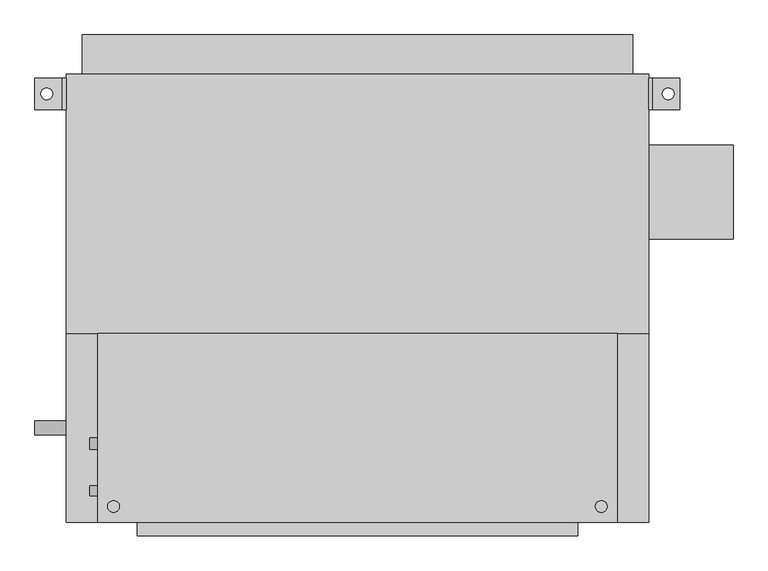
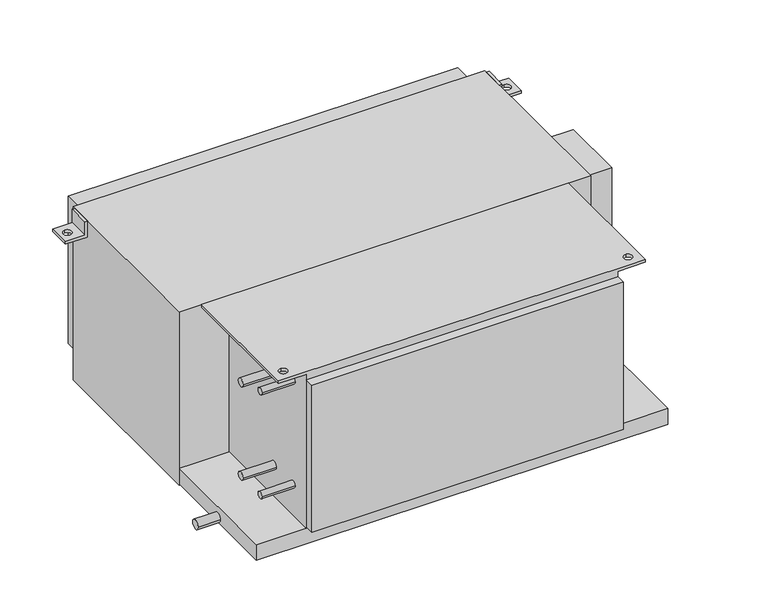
"""IFC4 building model written with IfcOpenShell, lengths in millimetres: proxy geometry, Concealed_High_Capacity_Horizontal_Fan_Coil_Unit_With_Plenum_-_42DCA_-_CARRIER_-_4-Pipe_LH_2022 : Size 12 - 277v/60Hz/1Ph - 6/2 Coil."""

import ifcopenshell
import ifcopenshell.guid

model = None  # the IFC model being written
_history = None  # IfcOwnerHistory: only IFC2X3 demands one
_inside = {}  # id of a spatial element -> (the spatial element, [elements in it])
_under = {}  # id of a project, library or spatial element -> (it, [spatial elements below it])
_declared = {}  # id of a project -> (the project, [libraries it declares])
_typed = {}  # id of a type object -> (the type object, [elements of that type])
_made_of = {}  # id of a material, layer set ... -> (it, [elements and type objects made of it])


def new_model(schema):
    """Start an empty IFC model of exactly this schema.

    Asked for "IFC4X3", IfcOpenShell would pick the latest addendum, in which some entities
    have other attributes; the version numbers below select the first issue.
    IFC2X3 requires an IfcOwnerHistory on every rooted entity: one is made here for all.
    """
    global model, _history
    if schema == "IFC4X3":
        model = ifcopenshell.file(schema_version=(4, 3, 0, 0))
    else:
        model = ifcopenshell.file(schema=schema)
    _inside.clear()
    _under.clear()
    _declared.clear()
    _typed.clear()
    _made_of.clear()
    _history = None
    if model.schema == "IFC2X3":
        org = make("IfcOrganization", Name="unknown")
        user = make(
            "IfcPersonAndOrganization",
            ThePerson=make("IfcPerson", FamilyName="unknown"),
            TheOrganization=org,
        )
        app = make(
            "IfcApplication",
            ApplicationDeveloper=org,
            Version="unknown",
            ApplicationFullName="unknown",
            ApplicationIdentifier="unknown",
        )
        _history = make(
            "IfcOwnerHistory",
            OwningUser=user,
            OwningApplication=app,
            ChangeAction="ADDED",
            CreationDate=0,
        )
    return model


def make(cls, **values):
    """One entity of the class cls with the attributes given. An attribute that is None is left unset."""
    return model.create_entity(
        cls, **{name: value for name, value in values.items() if value is not None}
    )


def rooted(cls, **values):
    """An entity with a GlobalId (a new one), such as an element, a storey or a relation."""
    return make(cls, GlobalId=ifcopenshell.guid.new(), OwnerHistory=_history, **values)


def si_unit(unit_type, name, prefix=None):
    """IfcSIUnit, for example si_unit("LENGTHUNIT", "METRE", prefix="MILLI")."""
    return make("IfcSIUnit", UnitType=unit_type, Prefix=prefix, Name=name)


def assignment(units):
    """IfcUnitAssignment: the units of a project."""
    return None if units is None else make("IfcUnitAssignment", Units=units)


def point(xyz):
    """IfcCartesianPoint."""
    return None if xyz is None else make("IfcCartesianPoint", Coordinates=xyz)


def direction(xyz):
    """IfcDirection."""
    return None if xyz is None else make("IfcDirection", DirectionRatios=xyz)


def frame(location, z_axis=None, x_axis=None):
    """IfcAxis2Placement3D, a coordinate frame: its origin and axes. An axis left out is left unset."""
    return make(
        "IfcAxis2Placement3D",
        Location=point(location),
        Axis=direction(z_axis),
        RefDirection=direction(x_axis),
    )


def frame_2d(location, x_axis=None):
    """IfcAxis2Placement2D, a coordinate frame in the plane: its origin and x axis."""
    return make(
        "IfcAxis2Placement2D", Location=point(location), RefDirection=direction(x_axis)
    )


def origin():
    """The frame at (0, 0, 0) with its axes left unset."""
    return frame((0.0, 0.0, 0.0))


def place(relative_to, where):
    """IfcLocalPlacement: puts the frame where relative to a parent placement (None: the world)."""
    return make(
        "IfcLocalPlacement", PlacementRelTo=relative_to, RelativePlacement=where
    )


def context(
    kind, dimensions, precision=None, world=None, true_north=None, identifier=None
):
    """IfcGeometricRepresentationContext, for example the 3D "Model" context."""
    return make(
        "IfcGeometricRepresentationContext",
        ContextIdentifier=identifier,
        ContextType=kind,
        CoordinateSpaceDimension=dimensions,
        Precision=precision,
        WorldCoordinateSystem=world,
        TrueNorth=true_north,
    )


def project(units=None, contexts=None):
    """IfcProject with its units and contexts."""
    return rooted(
        "IfcProject",
        Name="project",
        RepresentationContexts=contexts,
        UnitsInContext=assignment(units),
    )


def spatial(cls, under=None, at=None, **own):
    """A site, building, storey or space (cls), placed at a placement, below another one or the project."""
    s = rooted(cls, ObjectPlacement=at, **own)
    if under is not None:
        _under.setdefault(under.id(), (under, []))[1].append(s)
    return s


def polyline(points):
    """IfcPolyline through the points."""
    return make("IfcPolyline", Points=[point(p) for p in points])


def circle_curve(where, radius):
    """IfcCircle in the frame where."""
    return make("IfcCircle", Position=where, Radius=radius)


def trimmed(basis, trim1, trim2, sense, master):
    """IfcTrimmedCurve: the piece of a basis curve between two trims."""
    return make(
        "IfcTrimmedCurve",
        BasisCurve=basis,
        Trim1=trim1,
        Trim2=trim2,
        SenseAgreement=sense,
        MasterRepresentation=master,
    )


def segment(curve, same_sense, transition):
    """IfcCompositeCurveSegment."""
    return make(
        "IfcCompositeCurveSegment",
        Transition=transition,
        SameSense=same_sense,
        ParentCurve=curve,
    )


def composite_curve(segments, self_intersect=None):
    """IfcCompositeCurve: segments joined end to end."""
    return make("IfcCompositeCurve", Segments=segments, SelfIntersect=self_intersect)


def outline(outer, holes=None, kind="AREA"):
    """IfcArbitraryClosedProfileDef: a profile drawn as a closed curve; with holes, ...WithVoids."""
    if holes is None:
        return make("IfcArbitraryClosedProfileDef", ProfileType=kind, OuterCurve=outer)
    return make(
        "IfcArbitraryProfileDefWithVoids",
        ProfileType=kind,
        OuterCurve=outer,
        InnerCurves=holes,
    )


def extrude(swept, where, along, depth):
    """IfcExtrudedAreaSolid: the profile swept, set in the frame where, extruded along a direction by depth."""
    return make(
        "IfcExtrudedAreaSolid",
        SweptArea=swept,
        Position=where,
        ExtrudedDirection=direction(along),
        Depth=depth,
    )


def shape(context_of_items, identifier, shape_type, items):
    """IfcShapeRepresentation: the items that make up one representation, for example the "Body"."""
    return make(
        "IfcShapeRepresentation",
        ContextOfItems=context_of_items,
        RepresentationIdentifier=identifier,
        RepresentationType=shape_type,
        Items=items,
    )


def source(mapping_origin, context_of_items, identifier, shape_type, items):
    """IfcRepresentationMap: a shape defined once, which mapped items show again and again."""
    return make(
        "IfcRepresentationMap",
        MappingOrigin=mapping_origin,
        MappedRepresentation=shape(context_of_items, identifier, shape_type, items),
    )


def transform(
    local_origin,
    x_axis=None,
    y_axis=None,
    z_axis=None,
    scale=None,
    scale2=None,
    scale3=None,
    uniform=True,
):
    """IfcCartesianTransformationOperator3D, or its non-uniform kind. x_axis, y_axis, z_axis: its Axis1, 2, 3."""
    if uniform:
        return make(
            "IfcCartesianTransformationOperator3D",
            Axis1=direction(x_axis),
            Axis2=direction(y_axis),
            LocalOrigin=point(local_origin),
            Scale=scale,
            Axis3=direction(z_axis),
        )
    return make(
        "IfcCartesianTransformationOperator3DnonUniform",
        Axis1=direction(x_axis),
        Axis2=direction(y_axis),
        LocalOrigin=point(local_origin),
        Scale=scale,
        Axis3=direction(z_axis),
        Scale2=scale2,
        Scale3=scale3,
    )


def mapped(mapping_source, mapping_target):
    """IfcMappedItem: shows the shape of a source again, moved by a transform."""
    return make(
        "IfcMappedItem", MappingSource=mapping_source, MappingTarget=mapping_target
    )


def made_of(thing, what):
    """Note that an element or type object is made of a material, layer set ...; save() writes the relation."""
    if what is not None:
        _made_of.setdefault(what.id(), (what, []))[1].append(thing)
    return thing


def element(
    cls,
    number,
    at=None,
    inside=None,
    cuts=None,
    type_object=None,
    material=None,
    context=None,
    identifier="Body",
    shape_type=None,
    held_by="IfcProductDefinitionShape",
    body=None,
    shapes=None,
    **own,
):
    """One element of the class cls, such as IfcWall. Its Tag is "e" and its number.

    at: its placement. inside: the storey or other place that contains it. cuts: it is an
    opening in that element (IfcRelVoidsElement). A single representation is given by context,
    identifier, shape_type and body (its items); several are given by shapes. held_by: the class
    of the entity that holds the representations. save() writes the other relations.
    """
    e = rooted(cls, Tag="e%d" % number, ObjectPlacement=at, **own)
    if body is not None:
        shapes = [shape(context, identifier, shape_type, body)]
    if shapes is not None:
        e.Representation = make(held_by, Representations=shapes)
    if inside is not None:
        _inside.setdefault(inside.id(), (inside, []))[1].append(e)
    if cuts is not None:
        rooted(
            "IfcRelVoidsElement", RelatingBuildingElement=cuts, RelatedOpeningElement=e
        )
    if type_object is not None:
        _typed.setdefault(type_object.id(), (type_object, []))[1].append(e)
    return made_of(e, material)


def aggregate(whole, parts):
    """IfcRelAggregates: a whole, such as a stair, and the parts it consists of."""
    return rooted("IfcRelAggregates", RelatingObject=whole, RelatedObjects=parts)


def save(model, path):
    """Write the relations noted so far, then the file.

    IfcRelAggregates (storeys below a building ...), IfcRelContainedInSpatialStructure (elements
    in a storey), IfcRelDefinesByType, IfcRelAssociatesMaterial and IfcRelDeclares: one each for
    every whole, place, type object, material and project.
    """
    for whole, parts in _under.values():
        aggregate(whole, parts)
    for where, things in _inside.values():
        rooted(
            "IfcRelContainedInSpatialStructure",
            RelatedElements=things,
            RelatingStructure=where,
        )
    for kind, things in _typed.values():
        rooted("IfcRelDefinesByType", RelatedObjects=things, RelatingType=kind)
    for what, things in _made_of.values():
        rooted("IfcRelAssociatesMaterial", RelatedObjects=things, RelatingMaterial=what)
    for by, libraries in _declared.values():
        rooted("IfcRelDeclares", RelatingContext=by, RelatedDefinitions=libraries)
    model.write(path)


def plane_surface(at):
    """IfcPlane: the flat surface through the origin of the frame at, square to its z axis."""
    return make("IfcPlane", Position=at)


def revolved_surface(curve, axis_point, axis_direction):
    """IfcSurfaceOfRevolution: the curve turned about the line through axis_point along axis_direction."""
    return make(
        "IfcSurfaceOfRevolution",
        SweptCurve=make("IfcArbitraryOpenProfileDef", ProfileType="CURVE", Curve=curve),
        AxisPosition=make("IfcAxis1Placement", Location=point(axis_point), Axis=direction(axis_direction)),
    )


def advanced_brep(points, edges, surfaces, faces):
    """IfcAdvancedBrep: a solid bounded by faces that lie on surfaces and meet in shared edges.

    An edge is (start, end): straight between two places in points (the first is 0);
    or (start, end, curve); or (start, end, curve, False) where it runs against its curve.
    A face is (place in surfaces, loops), or (place, loops, False) where it looks against
    its surface's normal. A loop lists edges by number (the first is 1), with a minus sign
    where the edge is run from its end to its start. The first loop is the outer one.
    """
    corners = [point(p) for p in points]
    vertices = [make("IfcVertexPoint", VertexGeometry=c) for c in corners]
    made = []
    for start, end, *more in edges:
        made.append(
            make(
                "IfcEdgeCurve",
                EdgeStart=vertices[start],
                EdgeEnd=vertices[end],
                EdgeGeometry=more[0] if more else make("IfcPolyline", Points=[corners[start], corners[end]]),
                SameSense=more[1] if len(more) > 1 else True,
            )
        )
    hull = []
    for where, loops, *sense in faces:
        bounds = []
        for j, loop in enumerate(loops):
            ring = [make("IfcOrientedEdge", EdgeElement=made[abs(k) - 1], Orientation=k > 0) for k in loop]
            bounds.append(
                make(
                    "IfcFaceOuterBound" if j == 0 else "IfcFaceBound",
                    Bound=make("IfcEdgeLoop", EdgeList=ring),
                    Orientation=True,
                )
            )
        hull.append(make("IfcAdvancedFace", Bounds=bounds, FaceSurface=surfaces[where], SameSense=sense[0] if sense else True))
    return make("IfcAdvancedBrep", Outer=make("IfcClosedShell", CfsFaces=hull))


def mechanical_equipment_0505dad4(model_context):
    return source(origin(), model_context, "Body", "SolidModel", [
        advanced_brep(
        [(-266.7, -85.725, 0.0), (-266.7, -390.525, 0.0), (571.5, -390.525, 0.0), (571.5, -85.725, 0.0), (-241.3, -374.65, 0.0), (-241.3, -355.6, 0.0), (546.1, -374.65, 0.0), (546.1, -355.6, 0.0), (508.0, -85.725, -377.825), (508.0, -390.525, -377.825), (-203.2, -390.525, -377.825), (-203.2, -85.725, -377.825), (-203.2, -85.725, -6.35), (-266.7, -85.725, -6.35), (571.5, -85.725, -6.35), (508.0, -85.725, -6.35), (-203.2, -390.525, -6.35), (508.0, -390.525, -6.35), (571.5, -390.525, -6.35), (-266.7, -390.525, -6.35), (-241.3, -355.6, -6.35), (-241.3, -374.65, -6.35), (546.1, -355.6, -6.35), (546.1, -374.65, -6.35)],
        [
            (0, 1),
            (1, 2),
            (2, 3),
            (3, 0),
            (4, 5, circle_curve(frame((-241.3, -365.125, 0.0), z_axis=(0.0, 0.0, -1.0), x_axis=(0.0, 1.0, 0.0)), 9.525)),
            (5, 4, circle_curve(frame((-241.3, -365.125, 0.0), z_axis=(0.0, 0.0, -1.0), x_axis=(0.0, 1.0, 0.0)), 9.525)),
            (6, 7, circle_curve(frame((546.1, -365.125, 0.0), z_axis=(0.0, 0.0, -1.0), x_axis=(0.0, 1.0, 0.0)), 9.525)),
            (7, 6, circle_curve(frame((546.1, -365.125, 0.0), z_axis=(0.0, 0.0, -1.0), x_axis=(0.0, 1.0, 0.0)), 9.525)),
            (8, 9),
            (9, 10),
            (10, 11),
            (11, 8),
            (11, 12),
            (12, 13),
            (13, 0),
            (3, 14),
            (14, 15),
            (15, 8),
            (10, 16),
            (16, 12),
            (9, 17),
            (17, 18),
            (18, 2),
            (1, 19),
            (19, 16),
            (15, 17),
            (19, 13),
            (20, 21, circle_curve(frame((-241.3, -365.125, -6.35), z_axis=(0.0, 0.0, 1.0), x_axis=(0.0, 1.0, 0.0)), 9.525)),
            (21, 20, circle_curve(frame((-241.3, -365.125, -6.35), z_axis=(0.0, 0.0, 1.0), x_axis=(0.0, 1.0, 0.0)), 9.525)),
            (14, 18),
            (22, 23, circle_curve(frame((546.1, -365.125, -6.35), z_axis=(0.0, 0.0, 1.0), x_axis=(0.0, 1.0, 0.0)), 9.525)),
            (23, 22, circle_curve(frame((546.1, -365.125, -6.35), z_axis=(0.0, 0.0, 1.0), x_axis=(0.0, 1.0, 0.0)), 9.525)),
            (4, 21),
            (20, 5),
            (6, 23),
            (22, 7),
        ],
        [
            plane_surface(frame((-203.2, -85.725, 0.0), z_axis=(0.0, 0.0, 1.0), x_axis=(-1.0, 0.0, 0.0))),
            plane_surface(frame((-203.2, -85.725, -377.825), z_axis=(0.0, 0.0, -1.0), x_axis=(1.0, 0.0, 0.0))),
            plane_surface(frame((508.0, -85.725, 0.0), z_axis=(0.0, 1.0, 0.0), x_axis=(0.0, 0.0, -1.0))),
            plane_surface(frame((-203.2, -85.725, 0.0), z_axis=(-1.0, 0.0, 0.0), x_axis=(0.0, 0.0, -1.0))),
            plane_surface(frame((-203.2, -390.525, 0.0), z_axis=(0.0, -1.0, 0.0), x_axis=(0.0, 0.0, -1.0))),
            plane_surface(frame((508.0, -390.525, 0.0), z_axis=(1.0, 0.0, 0.0), x_axis=(0.0, 0.0, -1.0))),
            plane_surface(frame((-266.7, -85.725, -6.35), z_axis=(0.0, 0.0, -1.0), x_axis=(0.0, 1.0, 0.0))),
            plane_surface(frame((-266.7, -85.725, 0.0), z_axis=(-1.0, 0.0, 0.0), x_axis=(0.0, 0.0, -1.0))),
            plane_surface(frame((571.5, -390.525, 0.0), z_axis=(1.0, 0.0, 0.0), x_axis=(0.0, 0.0, -1.0))),
            revolved_surface(polyline([(-241.3, -355.6, -6.35), (-241.3, -355.6, 0.0)]), (-241.3, -365.125, 0.0), (0.0, 0.0, -1.0)),
            revolved_surface(polyline([(546.1, -355.6, -6.35), (546.1, -355.6, 0.0)]), (546.1, -365.125, 0.0), (0.0, 0.0, -1.0)),
        ],
        [
            (0, [[1, 2, 3, 4], [5, 6], [7, 8]]),
            (1, [[9, 10, 11, 12]]),
            (2, [[-12, 13, 14, 15, -4, 16, 17, 18]]),
            (3, [[-11, 19, 20, -13]]),
            (4, [[-10, 21, 22, 23, -2, 24, 25, -19]]),
            (5, [[-9, -18, 26, -21]]),
            (6, [[-14, -20, -25, 27], [28, 29]]),
            (6, [[30, -22, -26, -17], [31, 32]]),
            (7, [[-27, -24, -1, -15]]),
            (8, [[-30, -16, -3, -23]]),
            (9, [[33, -28, 34, -5]]),
            (9, [[-33, -6, -34, -29]]),
            (10, [[35, -31, 36, -7]]),
            (10, [[-35, -8, -36, -32]]),
        ],
    ),
        advanced_brep(
        [(-317.5, 327.025, -38.1), (-368.3, 327.025, -38.1), (-368.3, 327.025, -31.75), (-323.85, 327.025, -31.75), (-323.85, 327.025, 0.0), (-317.5, 327.025, 0.0), (-317.5, 276.225, -38.1), (-317.5, 276.225, 0.0), (-323.85, 276.225, 0.0), (-323.85, 276.225, -31.75), (-368.3, 276.225, -31.75), (-368.3, 276.225, -38.1), (-349.25, 292.1, -38.1), (-349.25, 311.15, -38.1), (-349.25, 311.15, -31.75), (-349.25, 292.1, -31.75)],
        [
            (0, 1),
            (1, 2),
            (2, 3),
            (3, 4),
            (4, 5),
            (5, 0),
            (6, 7),
            (7, 8),
            (8, 9),
            (9, 10),
            (10, 11),
            (11, 6),
            (0, 6),
            (11, 1),
            (12, 13, circle_curve(frame((-349.25, 301.625, -38.1), z_axis=(0.0, 0.0, 1.0), x_axis=(0.0, -1.0, 0.0)), 9.525)),
            (13, 12, circle_curve(frame((-349.25, 301.625, -38.1), z_axis=(0.0, 0.0, 1.0), x_axis=(0.0, -1.0, 0.0)), 9.525)),
            (10, 2),
            (9, 3),
            (14, 15, circle_curve(frame((-349.25, 301.625, -31.75), z_axis=(0.0, 0.0, -1.0), x_axis=(0.0, -1.0, 0.0)), 9.525)),
            (15, 14, circle_curve(frame((-349.25, 301.625, -31.75), z_axis=(0.0, 0.0, -1.0), x_axis=(0.0, -1.0, 0.0)), 9.525)),
            (8, 4),
            (7, 5),
            (14, 13),
            (12, 15),
        ],
        [
            plane_surface(frame((-317.5, 327.025, -38.1), z_axis=(0.0, 1.0, 0.0), x_axis=(-1.0, 0.0, 0.0))),
            plane_surface(frame((-317.5, 276.225, -38.1), z_axis=(0.0, -1.0, 0.0), x_axis=(1.0, 0.0, 0.0))),
            plane_surface(frame((-317.5, 327.025, -38.1), z_axis=(0.0, 0.0, -1.0), x_axis=(0.0, -1.0, 0.0))),
            plane_surface(frame((-368.3, 327.025, -38.1), z_axis=(-1.0, 0.0, 0.0), x_axis=(0.0, -1.0, 0.0))),
            plane_surface(frame((-368.3, 327.025, -31.75), z_axis=(0.0, 0.0, 1.0), x_axis=(0.0, -1.0, 0.0))),
            plane_surface(frame((-323.85, 327.025, -31.75), z_axis=(-1.0, 0.0, 0.0), x_axis=(0.0, -1.0, 0.0))),
            plane_surface(frame((-323.85, 327.025, 0.0), z_axis=(0.0, 0.0, 1.0), x_axis=(0.0, -1.0, 0.0))),
            plane_surface(frame((-317.5, 327.025, 0.0), z_axis=(1.0, 0.0, 0.0), x_axis=(0.0, -1.0, 0.0))),
            revolved_surface(polyline([(-349.25, 292.1, -38.1), (-349.25, 292.1, -31.75)]), (-349.25, 301.625, -31.75), (0.0, 0.0, -1.0)),
        ],
        [
            (0, [[1, 2, 3, 4, 5, 6]]),
            (1, [[7, 8, 9, 10, 11, 12]]),
            (2, [[-1, 13, -12, 14], [15, 16]]),
            (3, [[-2, -14, -11, 17]]),
            (4, [[-3, -17, -10, 18], [19, 20]]),
            (5, [[-4, -18, -9, 21]]),
            (6, [[-5, -21, -8, 22]]),
            (7, [[-6, -22, -7, -13]]),
            (8, [[23, -15, 24, -19]]),
            (8, [[-23, -20, -24, -16]]),
        ],
    ),
        advanced_brep(
        [(622.3, 327.025, -38.1), (622.3, 327.025, 0.0), (628.65, 327.025, 0.0), (628.65, 327.025, -31.75), (673.1, 327.025, -31.75), (673.1, 327.025, -38.1), (622.3, 276.225, -38.1), (673.1, 276.225, -38.1), (673.1, 276.225, -31.75), (628.65, 276.225, -31.75), (628.65, 276.225, 0.0), (622.3, 276.225, 0.0), (654.05, 311.15, -31.75), (654.05, 292.1, -31.75), (654.05, 292.1, -38.1), (654.05, 311.15, -38.1)],
        [
            (0, 1),
            (1, 2),
            (2, 3),
            (3, 4),
            (4, 5),
            (5, 0),
            (6, 7),
            (7, 8),
            (8, 9),
            (9, 10),
            (10, 11),
            (11, 6),
            (0, 6),
            (11, 1),
            (10, 2),
            (9, 3),
            (8, 4),
            (12, 13, circle_curve(frame((654.05, 301.625, -31.75), z_axis=(0.0, 0.0, -1.0), x_axis=(0.0, -1.0, 0.0)), 9.525)),
            (13, 12, circle_curve(frame((654.05, 301.625, -31.75), z_axis=(0.0, 0.0, -1.0), x_axis=(0.0, -1.0, 0.0)), 9.525)),
            (7, 5),
            (14, 15, circle_curve(frame((654.05, 301.625, -38.1), z_axis=(0.0, 0.0, 1.0), x_axis=(0.0, -1.0, 0.0)), 9.525)),
            (15, 14, circle_curve(frame((654.05, 301.625, -38.1), z_axis=(0.0, 0.0, 1.0), x_axis=(0.0, -1.0, 0.0)), 9.525)),
            (12, 15),
            (14, 13),
        ],
        [
            plane_surface(frame((-317.5, 327.025, -38.1), z_axis=(0.0, 1.0, 0.0), x_axis=(-1.0, 0.0, 0.0))),
            plane_surface(frame((-317.5, 276.225, -38.1), z_axis=(0.0, -1.0, 0.0), x_axis=(1.0, 0.0, 0.0))),
            plane_surface(frame((622.3, 327.025, -38.1), z_axis=(-1.0, 0.0, 0.0), x_axis=(0.0, -1.0, 0.0))),
            plane_surface(frame((622.3, 327.025, 0.0), z_axis=(0.0, 0.0, 1.0), x_axis=(0.0, -1.0, 0.0))),
            plane_surface(frame((628.65, 327.025, 0.0), z_axis=(1.0, 0.0, 0.0), x_axis=(0.0, -1.0, 0.0))),
            plane_surface(frame((628.65, 327.025, -31.75), z_axis=(0.0, 0.0, 1.0), x_axis=(0.0, -1.0, 0.0))),
            plane_surface(frame((673.1, 327.025, -31.75), z_axis=(1.0, 0.0, 0.0), x_axis=(0.0, -1.0, 0.0))),
            plane_surface(frame((673.1, 327.025, -38.1), z_axis=(0.0, 0.0, -1.0), x_axis=(0.0, -1.0, 0.0))),
            revolved_surface(polyline([(654.05, 292.1, -38.1), (654.05, 292.1, -31.75)]), (654.05, 301.625, -31.75), (0.0, 0.0, -1.0)),
        ],
        [
            (0, [[1, 2, 3, 4, 5, 6]]),
            (1, [[7, 8, 9, 10, 11, 12]]),
            (2, [[-1, 13, -12, 14]]),
            (3, [[-2, -14, -11, 15]]),
            (4, [[-3, -15, -10, 16]]),
            (5, [[-4, -16, -9, 17], [18, 19]]),
            (6, [[-5, -17, -8, 20]]),
            (7, [[-6, -20, -7, -13], [21, 22]]),
            (8, [[23, -21, 24, -18]]),
            (8, [[-23, -19, -24, -22]]),
        ],
    ),
        extrude(outline(polyline([(-292.1, 396.875), (596.9, 396.875), (596.9, 333.375), (-292.1, 333.375), (-292.1, 396.875)])), frame((0.0, 0.0, -377.825), z_axis=(0.0, 0.0, 1.0), x_axis=(1.0, 0.0, 0.0)), (0.0, 0.0, 1.0), 355.6),
        extrude(outline(composite_curve([segment(trimmed(circle_curve(frame_2d((-263.525, -76.2)), 9.525), [point((-273.05, -76.2))], [point((-254.0, -76.2))], False, "CARTESIAN"), True, "CONTINUOUS"), segment(trimmed(circle_curve(frame_2d((-263.525, -76.2)), 9.525), [point((-254.0, -76.2))], [point((-273.05, -76.2))], False, "CARTESIAN"), True, "CONTINUOUS")], self_intersect=False)), frame((-279.4, 0.0, 0.0), z_axis=(1.0, 0.0, 0.0), x_axis=(0.0, 1.0, 0.0)), (0.0, 0.0, 1.0), 76.2),
        extrude(outline(composite_curve([segment(trimmed(circle_curve(frame_2d((-263.525, -301.625)), 9.525), [point((-273.05, -301.625))], [point((-254.0, -301.625))], False, "CARTESIAN"), True, "CONTINUOUS"), segment(trimmed(circle_curve(frame_2d((-263.525, -301.625)), 9.525), [point((-254.0, -301.625))], [point((-273.05, -301.625))], False, "CARTESIAN"), True, "CONTINUOUS")], self_intersect=False)), frame((-279.4, 0.0, 0.0), z_axis=(1.0, 0.0, 0.0), x_axis=(0.0, 1.0, 0.0)), (0.0, 0.0, 1.0), 76.2),
        extrude(outline(composite_curve([segment(trimmed(circle_curve(frame_2d((-339.725, -50.8)), 7.9375), [point((-347.6625, -50.8))], [point((-331.7875, -50.8))], False, "CARTESIAN"), True, "CONTINUOUS"), segment(trimmed(circle_curve(frame_2d((-339.725, -50.8)), 7.9375), [point((-331.7875, -50.8))], [point((-347.6625, -50.8))], False, "CARTESIAN"), True, "CONTINUOUS")], self_intersect=False)), frame((-279.4, 0.0, 0.0), z_axis=(1.0, 0.0, 0.0), x_axis=(0.0, 1.0, 0.0)), (0.0, 0.0, 1.0), 76.2),
        extrude(outline(composite_curve([segment(trimmed(circle_curve(frame_2d((-339.725, -301.625)), 7.9375), [point((-347.6625, -301.625))], [point((-331.7875, -301.625))], False, "CARTESIAN"), True, "CONTINUOUS"), segment(trimmed(circle_curve(frame_2d((-339.725, -301.625)), 7.9375), [point((-331.7875, -301.625))], [point((-347.6625, -301.625))], False, "CARTESIAN"), True, "CONTINUOUS")], self_intersect=False)), frame((-279.4, 0.0, 0.0), z_axis=(1.0, 0.0, 0.0), x_axis=(0.0, 1.0, 0.0)), (0.0, 0.0, 1.0), 76.2),
        extrude(outline(composite_curve([segment(trimmed(circle_curve(frame_2d((-238.125, -403.225)), 11.1125), [point((-249.2375, -403.225))], [point((-227.0125, -403.225))], False, "CARTESIAN"), True, "CONTINUOUS"), segment(trimmed(circle_curve(frame_2d((-238.125, -403.225)), 11.1125), [point((-227.0125, -403.225))], [point((-249.2375, -403.225))], False, "CARTESIAN"), True, "CONTINUOUS")], self_intersect=False)), frame((-368.3, 0.0, 0.0), z_axis=(1.0, 0.0, 0.0), x_axis=(0.0, 1.0, 0.0)), (0.0, 0.0, 1.0), 50.8),
        extrude(outline(polyline([(758.825, 219.075), (758.825, 66.675), (622.3, 66.675), (622.3, 219.075), (758.825, 219.075)])), frame((0.0, 0.0, -273.05), z_axis=(0.0, 0.0, 1.0), x_axis=(1.0, 0.0, 0.0)), (0.0, 0.0, 1.0), 152.4),
        extrude(outline(polyline([(508.0, -412.75), (-203.2, -412.75), (-203.2, -390.525), (508.0, -390.525), (508.0, -412.75)])), frame((0.0, 0.0, -374.65), z_axis=(0.0, 0.0, 1.0), x_axis=(1.0, 0.0, 0.0)), (0.0, 0.0, 1.0), 355.6),
        extrude(outline(polyline([(622.3, -85.725), (-317.5, -85.725), (-317.5, 333.375), (622.3, 333.375), (622.3, -85.725)])), frame((0.0, 0.0, -419.1), z_axis=(0.0, 0.0, 1.0), x_axis=(1.0, 0.0, 0.0)), (0.0, 0.0, 1.0), 419.1),
        extrude(outline(polyline([(622.3, -85.725), (622.3, -390.525), (-317.5, -390.525), (-317.5, -85.725), (622.3, -85.725)])), frame((0.0, 0.0, -415.925), z_axis=(0.0, 0.0, 1.0), x_axis=(1.0, 0.0, 0.0)), (0.0, 0.0, 1.0), 38.1),
    ])


if __name__ == "__main__":
    model = new_model("IFC4")
    model_context = context("Model", 3, world=origin())
    ifc_project = project(units=[si_unit("LENGTHUNIT", "METRE", prefix="MILLI")], contexts=[model_context])
    site = spatial("IfcSite", under=ifc_project)
    building = spatial("IfcBuilding", under=site)
    placement = place(None, origin())
    mechanical_equipment_shape = mechanical_equipment_0505dad4(model_context)
    element("IfcBuildingElementProxy", 1, Name="Concealed_High_Capacity_Horizontal_Fan_Coil_Unit_With_Plenum_-_42DCA_-_CARRIER_-_4-Pipe_LH_2022 : Size 12 - 277v/60Hz/1Ph - 6/2 Coil", ObjectType="Concealed_High_Capacity_Horizontal_Fan_Coil_Unit_With_Plenum_-_42DCA_-_CARRIER_-_4-Pipe_LH_2022 : Size 12 - 277v/60Hz/1Ph - 6/2 Coil", at=placement, inside=building, context=model_context, shape_type="MappedRepresentation", body=[
        mapped(mechanical_equipment_shape, transform((0.0, 0.0, 0.0), x_axis=(1.0, 0.0, 0.0), y_axis=(0.0, 1.0, 0.0), z_axis=(0.0, 0.0, 1.0))),
    ])
    save(model, "model.ifc")
